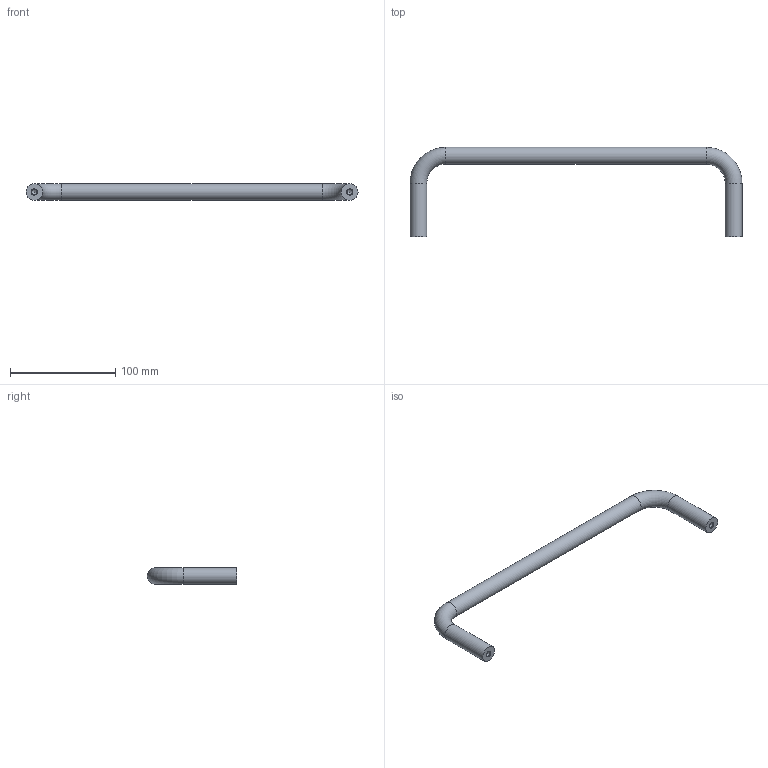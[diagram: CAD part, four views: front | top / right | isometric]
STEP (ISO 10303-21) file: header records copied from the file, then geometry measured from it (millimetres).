
FILE_DESCRIPTION(/* description */ ('STEP AP214'),/* implementation_level */ '2;1');
FILE_NAME(/* name */ 'Cabinet U-Handle_ Stainless Steel GN 435-NI-16-300-85-GS',/* time_stamp */ '2023-12-15T08:44:35+01:00',/* author */ ('License CC BY-ND 4.0'),/* organization */ ('CADENAS'),/* preprocessor_version */ 'ST-DEVELOPER v19.3',/* originating_system */ 'PARTsolutions',/* authorisation */ ' ');
FILE_SCHEMA (('AUTOMOTIVE_DESIGN {1 0 10303 214 3 1 1}'));
Length unit declared in the file: millimetre
Products named in the file (1): Cabinet U-Handle, Stainless Steel GN 435-NI-16-300-85-GS
Bounding box: 316 x 85 x 16 mm (x, y, z)
Volume: 86163.5 mm3; surface area: 22592.4 mm2
Topology: 1 solids, 1 shells, 13 faces, 30 edges, 19 vertices
Faces by surface type: cylinder 5, cone 4, plane 2, torus 2
Full cylindrical faces by diameter (mm): 4.917 x2, 16 x3
Entity records: 292 total; most frequent: DIRECTION 52, CARTESIAN_POINT 40, FACE_BOUND 26, AXIS2_PLACEMENT_3D 26, ORIENTED_EDGE 24, EDGE_LOOP 24, VERTEX_POINT 14, ADVANCED_FACE 13
